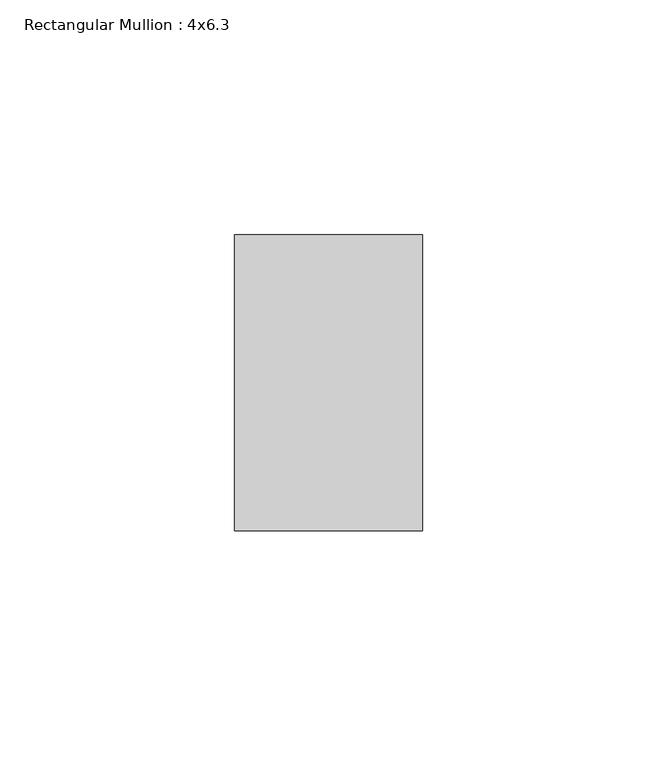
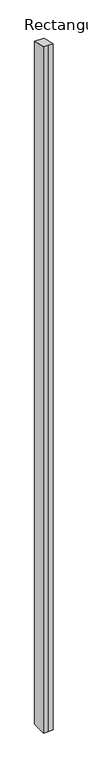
"""IFC4 building model written with IfcOpenShell, lengths in millimetres: member geometry, Rectangular Mullion : 4x6.3."""

from ifc_helpers import new_model, si_unit, origin, place, context, project, spatial, faceted_brep, source, transform, mapped, element, save


def rectangular_mullion_4x6_3_b91d4498(model_context):
    return source(origin(), model_context, "Body", "Brep", [
        faceted_brep([(-20.0, 20.0, -3048.0069184), (-20.0, 83.0, -3048.0069184), (20.0, 83.0, -3048.0069184), (20.0, 20.0, -3048.0069184), (0.0, 20.0, -3048.0069184), (0.0, 20.0, -4.3995804), (-20.0, 20.0, -4.3995804), (20.0, 20.0, -4.3995804), (20.0, 83.0, -18.2582585), (-20.0, 83.0, -18.2582585)], [[[0, 1, 2, 3, 4]], [[5, 6, 0, 4]], [[7, 5, 4, 3]], [[8, 7, 3, 2]], [[9, 8, 2, 1]], [[6, 9, 1, 0]], [[6, 5, 7, 8, 9]]]),
    ])


if __name__ == "__main__":
    model = new_model("IFC4")
    model_context = context("Model", 3, world=origin())
    ifc_project = project(units=[si_unit("LENGTHUNIT", "METRE", prefix="MILLI")], contexts=[model_context])
    site = spatial("IfcSite", under=ifc_project)
    building = spatial("IfcBuilding", under=site)
    placement = place(None, origin())
    rectangular_mullion_4x6_3_shape = rectangular_mullion_4x6_3_b91d4498(model_context)
    element("IfcMember", 1, ObjectType="Rectangular Mullion : 4x6.3", at=placement, inside=building, context=model_context, shape_type="MappedRepresentation", body=[
        mapped(rectangular_mullion_4x6_3_shape, transform((0.0, 0.0, 0.0), x_axis=(1.0, 0.0, 0.0), y_axis=(0.0, 1.0, 0.0), z_axis=(0.0, 0.0, 1.0))),
    ])
    save(model, "model.ifc")
